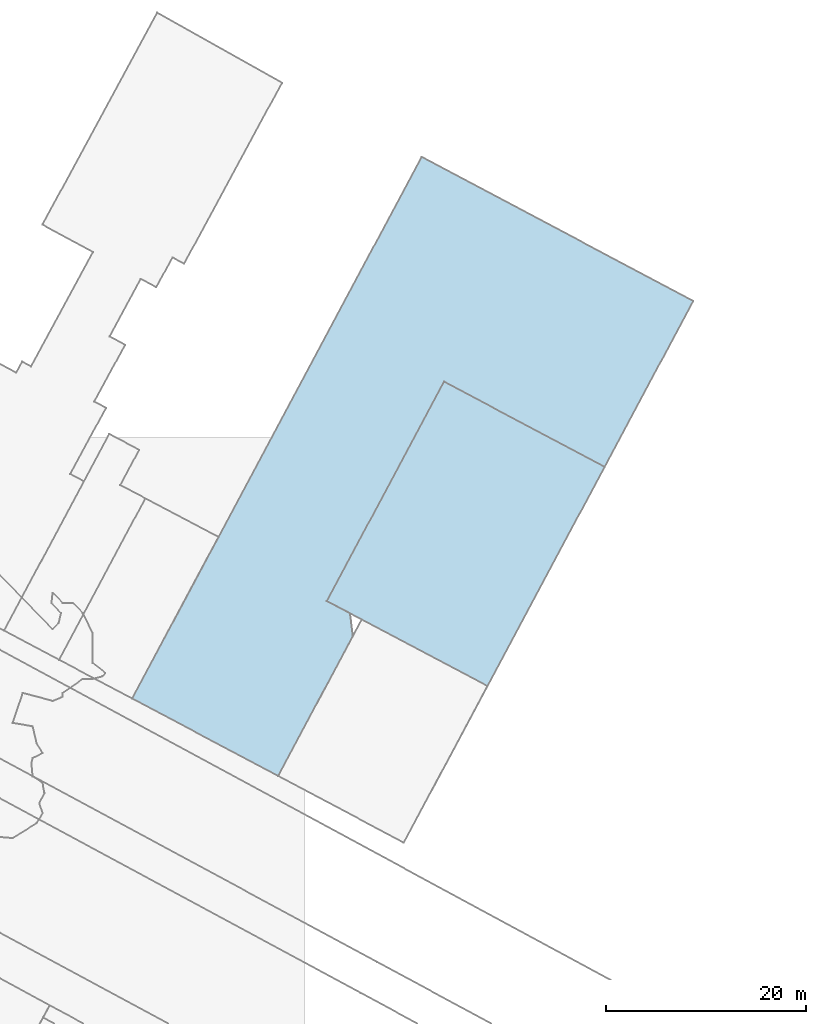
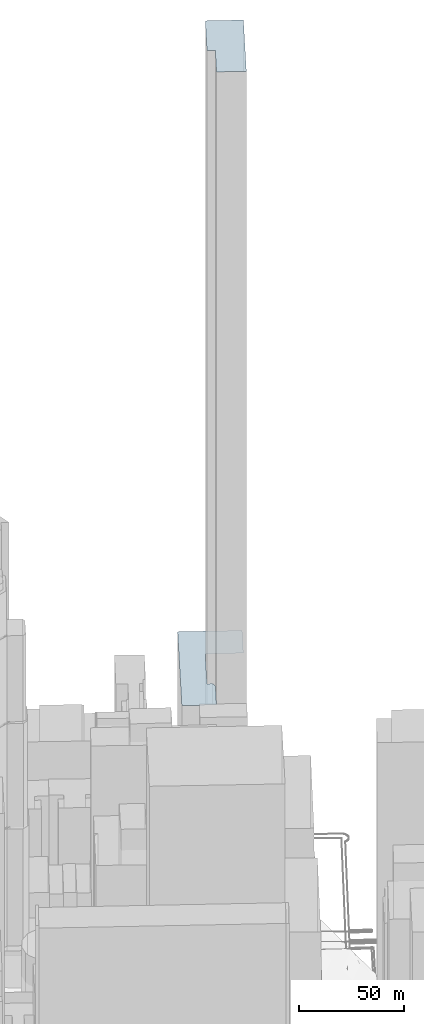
# Not in any storey, part 48 of 80: 2 roofs.
"""IFC4 building model written with IfcOpenShell, lengths in metres."""

from ifc_helpers import new_model, si_unit, frame, origin_with_axes, place, context, subcontext, project, spatial, polygons, element, save


model = new_model("IFC4")

# Units and contexts
model_context = context("Model", 3, precision=1e-05, world=origin_with_axes())
body_context = subcontext(model_context, "Body", "Model", "MODEL_VIEW")
ifc_project = project(units=[si_unit("AREAUNIT", "SQUARE_METRE"), si_unit("LENGTHUNIT", "METRE")], contexts=[model_context])

# Sites, building
site_1_placement = place(None, origin_with_axes())
site_1 = spatial("IfcSite", under=ifc_project, at=site_1_placement, Name="Topoexport Site")
site_2_placement = place(site_1_placement, origin_with_axes())
site_2 = spatial("IfcSite", under=site_1, at=site_2_placement, Name="TPX_BATIMENTS")
building_1_placement = place(site_2_placement, frame((369.7036563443, 345.7479637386, 18.6004102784), z_axis=(0.0, 0.0, 1.0), x_axis=(1.0, 0.0, 0.0)))
building_1 = spatial("IfcBuilding", under=site_2, at=building_1_placement, Name="Batiment 226", CompositionType="ELEMENT")

# Roof
roof_1_placement = place(None, frame((369.7036563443, 345.7479637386, 18.6004102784), z_axis=(0.0, 0.0, 1.0), x_axis=(1.0, 0.0, 0.0)))
element("IfcRoof", 1, at=roof_1_placement, inside=building_1, Name="Toiture 0", context=body_context, shape_type="Tessellation", body=[
    polygons([(0.0, 0.0, 435.0), (12.5538989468, -6.6594085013, 435.0), (32.6119575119, 30.8779721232, 435.0), (16.5756487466, 39.3841472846, 435.0), (4.8696102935, 17.4761939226, 435.0), (8.3520704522, 15.6293873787, 435.0)], [[[6, 1, 2]], [[2, 3, 4]], [[4, 5, 6]], [[6, 2, 4]]]),
])

# Building
building_2_placement = place(site_2_placement, frame((355.1197740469, 353.4828688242, 19.0004593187), z_axis=(0.0, 0.0, 1.0), x_axis=(1.0, 0.0, 0.0)))
building_2 = spatial("IfcBuilding", under=site_2, at=building_2_placement, Name="Batiment 238", CompositionType="ELEMENT")

# Roof
roof_2_placement = place(None, frame((355.1197740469, 353.4828688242, 19.0004593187), z_axis=(0.0, 0.0, 1.0), x_axis=(1.0, 0.0, 0.0)))
element("IfcRoof", 2, at=roof_2_placement, inside=building_2, Name="Toiture 0", context=body_context, shape_type="Tessellation", body=[
    polygons([(0.0, 0.0, 67.0), (14.5838822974, -7.7349050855, 67.0), (22.0519980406, 6.2410466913, 67.0), (21.7807161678, 8.5138501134, 67.0), (19.4534925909, 9.741288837, 67.0), (31.159531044, 31.649242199, 67.0), (47.1958398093, 23.1430670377, 67.0), (56.0517837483, 39.7109589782, 67.0), (28.9225776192, 54.1052639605, 67.0)], [[[9, 1, 2]], [[2, 3, 4]], [[6, 7, 8]], [[2, 4, 5]], [[6, 8, 9]], [[9, 2, 5]], [[5, 6, 9]]]),
])

save(model, "model.ifc")
